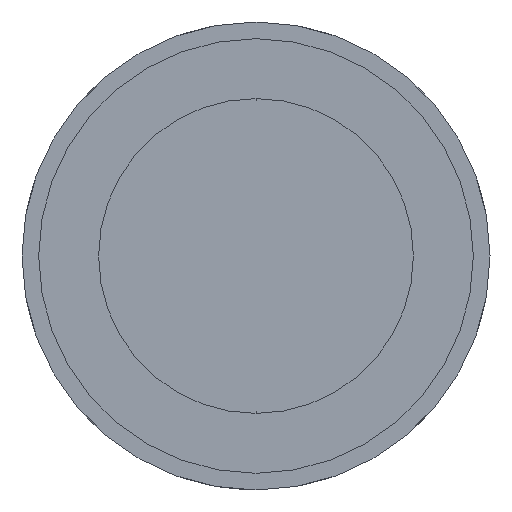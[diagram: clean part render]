
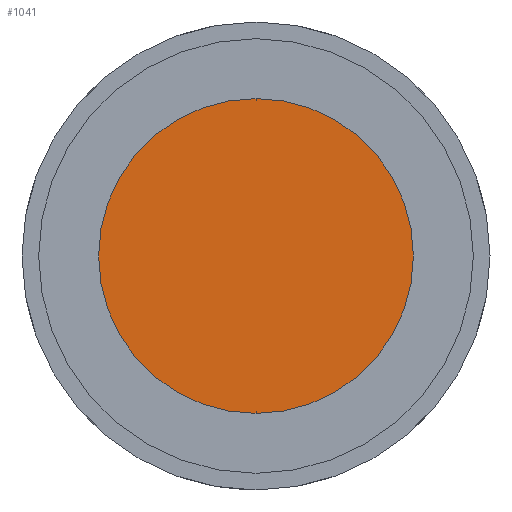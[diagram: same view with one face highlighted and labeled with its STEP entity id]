
A CAD part, front view. The second image highlights one B-rep face of the part: STEP entity #1041.
In plain terms, the highlighted planar face has unit normal (0, -1, 0).
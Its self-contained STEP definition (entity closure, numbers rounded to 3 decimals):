
#711=CARTESIAN_POINT(' ',(0.,-3.7,9.418));
#712=VERTEX_POINT(' ',#711);
#726=CARTESIAN_POINT(' ',(0.,-3.7,0.));
#731=DIRECTION(' ',(0.,1.,0.));
#736=DIRECTION(' ',(0.,0.,1.));
#741=AXIS2_PLACEMENT_3D(' ',#726,#731,#736);
#746=CIRCLE('',#741,9.418);
#751=CARTESIAN_POINT(' ',(0.,-3.7,-9.418));
#752=VERTEX_POINT(' ',#751);
#756=EDGE_CURVE(' ',#712,#752,#746,.T.);
#931=CARTESIAN_POINT(' ',(0.,-3.7,0.));
#936=DIRECTION(' ',(0.,1.,0.));
#941=DIRECTION(' ',(0.,0.,-1.));
#946=AXIS2_PLACEMENT_3D(' ',#931,#936,#941);
#951=CIRCLE('',#946,9.418);
#956=EDGE_CURVE(' ',#752,#712,#951,.T.);
#996=DIRECTION(' ',(0.,-1.,0.));
#1001=CARTESIAN_POINT(' ',(-9.67,-3.7,9.418));
#1006=DIRECTION(' ',(0.,0.,-1.));
#1011=AXIS2_PLACEMENT_3D(' ',#1001,#996,#1006);
#1016=PLANE('NONE',#1011);
#1021=ORIENTED_EDGE(' ',*,*,#956,.F.);
#1026=ORIENTED_EDGE(' ',*,*,#756,.F.);
#1031=EDGE_LOOP(' ',(#1021,#1026));
#1036=FACE_OUTER_BOUND(' ',#1031,.T.);
#1041=ADVANCED_FACE('NONE',(#1036),#1016,.T.);
